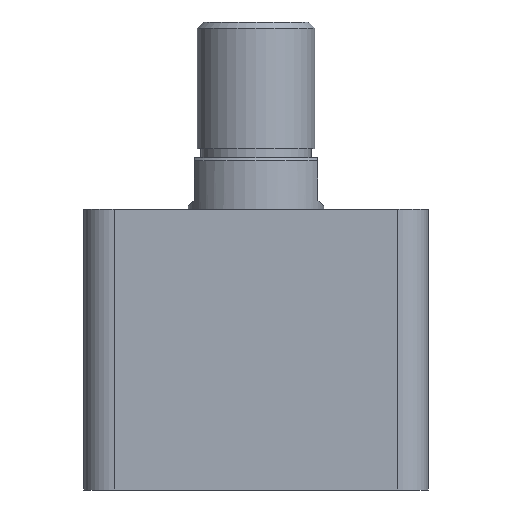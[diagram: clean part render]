
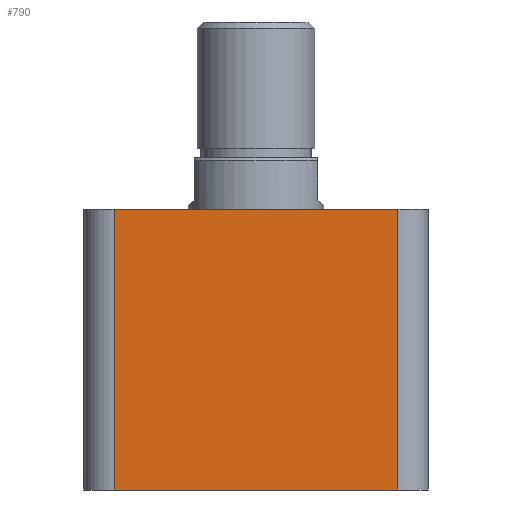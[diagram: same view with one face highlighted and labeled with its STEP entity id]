
A CAD part, front view. The second image highlights one B-rep face of the part: STEP entity #790.
In plain terms, the highlighted planar face has unit normal (0, -1, 0).
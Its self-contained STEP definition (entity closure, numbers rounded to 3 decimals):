
#258 = LINE ( 'NONE', #2168, #268 ) ;
#264 = LINE ( 'NONE', #2178, #266 ) ;
#266 = VECTOR ( 'NONE', #2179, 1000. ) ;
#267 = LINE ( 'NONE', #2181, #270 ) ;
#268 = VECTOR ( 'NONE', #2180, 1000. ) ;
#269 = LINE ( 'NONE', #2183, #272 ) ;
#270 = VECTOR ( 'NONE', #2182, 1000. ) ;
#272 = VECTOR ( 'NONE', #2184, 1000. ) ;
#522 = ORIENTED_EDGE ( 'NONE', *, *, #2504, .T. ) ;
#524 = ORIENTED_EDGE ( 'NONE', *, *, #2503, .F. ) ;
#525 = ORIENTED_EDGE ( 'NONE', *, *, #2502, .T. ) ;
#529 = ORIENTED_EDGE ( 'NONE', *, *, #2501, .T. ) ;
#686 = DIRECTION ( 'NONE',  ( 0., 0., 1. ) ) ;
#688 = DIRECTION ( 'NONE',  ( 0., 1., 0. ) ) ;
#690 = PLANE ( 'NONE',  #1696 ) ;
#698 = CARTESIAN_POINT ( 'NONE',  ( -57., -57., 93. ) ) ;
#790 = ADVANCED_FACE ( 'NONE', ( #2671 ), #690, .F. ) ;
#898 = EDGE_LOOP ( 'NONE', ( #529, #525, #524, #522 ) ) ;
#1327 = CARTESIAN_POINT ( 'NONE',  ( 47., -57., 93. ) ) ;
#1329 = CARTESIAN_POINT ( 'NONE',  ( -47., -57., 93. ) ) ;
#1330 = CARTESIAN_POINT ( 'NONE',  ( 47., -57., 0. ) ) ;
#1336 = CARTESIAN_POINT ( 'NONE',  ( -47., -57., 0. ) ) ;
#1696 = AXIS2_PLACEMENT_3D ( 'NONE', #698, #688, #686 ) ;
#1716 = VERTEX_POINT ( 'NONE', #1327 ) ;
#1717 = VERTEX_POINT ( 'NONE', #1329 ) ;
#1718 = VERTEX_POINT ( 'NONE', #1330 ) ;
#1727 = VERTEX_POINT ( 'NONE', #1336 ) ;
#2168 = CARTESIAN_POINT ( 'NONE',  ( 47., -57., 93. ) ) ;
#2178 = CARTESIAN_POINT ( 'NONE',  ( -57., -57., 0. ) ) ;
#2179 = DIRECTION ( 'NONE',  ( 1., 0., 0. ) ) ;
#2180 = DIRECTION ( 'NONE',  ( 0., 0., 1. ) ) ;
#2181 = CARTESIAN_POINT ( 'NONE',  ( -57., -57., 93. ) ) ;
#2182 = DIRECTION ( 'NONE',  ( 1., 0., 0. ) ) ;
#2183 = CARTESIAN_POINT ( 'NONE',  ( -47., -57., 93. ) ) ;
#2184 = DIRECTION ( 'NONE',  ( 0., 0., -1. ) ) ;
#2501 = EDGE_CURVE ( 'NONE', #1727, #1718, #264, .T. ) ;
#2502 = EDGE_CURVE ( 'NONE', #1718, #1716, #258, .T. ) ;
#2503 = EDGE_CURVE ( 'NONE', #1717, #1716, #267, .T. ) ;
#2504 = EDGE_CURVE ( 'NONE', #1717, #1727, #269, .T. ) ;
#2671 = FACE_OUTER_BOUND ( 'NONE', #898, .T. ) ;
